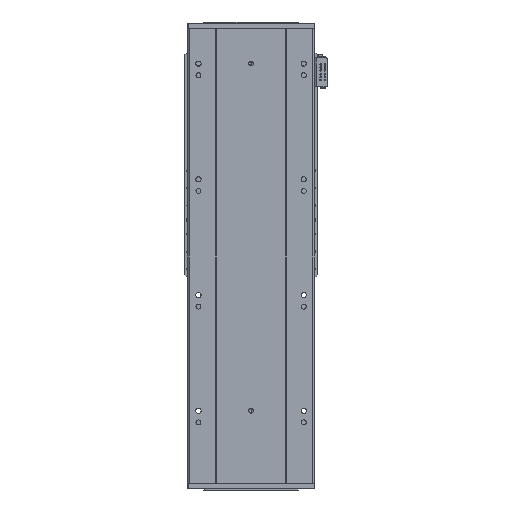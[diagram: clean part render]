
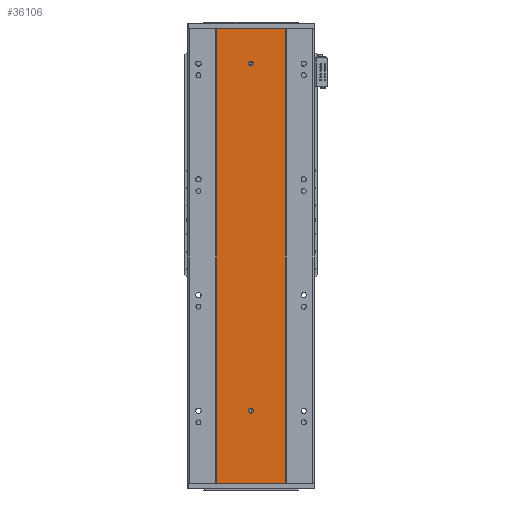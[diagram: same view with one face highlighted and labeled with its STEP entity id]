
A CAD part, front view. The second image highlights one B-rep face of the part: STEP entity #36106.
In plain terms, the highlighted planar face has unit normal (0, -1, 0).
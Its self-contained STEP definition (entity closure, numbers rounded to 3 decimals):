
#697 = ORIENTED_EDGE ( 'NONE', *, *, #25217, .T. ) ;
#701 = CARTESIAN_POINT ( 'NONE',  ( -60., 0., 785. ) ) ;
#1641 = EDGE_CURVE ( 'NONE', #48117, #24196, #40648, .T. ) ;
#1971 = AXIS2_PLACEMENT_3D ( 'NONE', #10897, #28650, #24479 ) ;
#2650 = ORIENTED_EDGE ( 'NONE', *, *, #1641, .F. ) ;
#4855 = ORIENTED_EDGE ( 'NONE', *, *, #45917, .F. ) ;
#6539 = DIRECTION ( 'NONE',  ( 0., 1., 0. ) ) ;
#6556 = CARTESIAN_POINT ( 'NONE',  ( -60., 0., 0. ) ) ;
#8780 = ORIENTED_EDGE ( 'NONE', *, *, #43769, .T. ) ;
#8926 = CARTESIAN_POINT ( 'NONE',  ( 0., 0., 729. ) ) ;
#9134 = CARTESIAN_POINT ( 'NONE',  ( 0., 0., 125. ) ) ;
#9730 = VERTEX_POINT ( 'NONE', #26915 ) ;
#10298 = LINE ( 'NONE', #6556, #26683 ) ;
#10897 = CARTESIAN_POINT ( 'NONE',  ( 0., 0., 125. ) ) ;
#11436 = CIRCLE ( 'NONE', #1971, 4. ) ;
#11693 = FACE_OUTER_BOUND ( 'NONE', #20039, .T. ) ;
#12550 = EDGE_CURVE ( 'NONE', #9730, #42192, #39896, .T. ) ;
#13127 = ORIENTED_EDGE ( 'NONE', *, *, #50139, .F. ) ;
#13851 = LINE ( 'NONE', #38752, #47324 ) ;
#14269 = AXIS2_PLACEMENT_3D ( 'NONE', #55718, #33949, #29525 ) ;
#17302 = CARTESIAN_POINT ( 'NONE',  ( -60., 0., 785. ) ) ;
#17425 = AXIS2_PLACEMENT_3D ( 'NONE', #9134, #39503, #43885 ) ;
#17673 = CARTESIAN_POINT ( 'NONE',  ( 0., 0., 129. ) ) ;
#18410 = VECTOR ( 'NONE', #50647, 1000. ) ;
#18568 = CIRCLE ( 'NONE', #51155, 4. ) ;
#19409 = DIRECTION ( 'NONE',  ( 1., 0., 0. ) ) ;
#19790 = LINE ( 'NONE', #19913, #18410 ) ;
#19913 = CARTESIAN_POINT ( 'NONE',  ( 60., 0., 785. ) ) ;
#20039 = EDGE_LOOP ( 'NONE', ( #8780, #40141, #51662, #697 ) ) ;
#21055 = LINE ( 'NONE', #17302, #38206 ) ;
#21075 = DIRECTION ( 'NONE',  ( 0., 0., -1. ) ) ;
#21824 = CARTESIAN_POINT ( 'NONE',  ( -60., 0., 0. ) ) ;
#22273 = DIRECTION ( 'NONE',  ( 0., 0., -1. ) ) ;
#24196 = VERTEX_POINT ( 'NONE', #17673 ) ;
#24479 = DIRECTION ( 'NONE',  ( 0., 0., -1. ) ) ;
#25217 = EDGE_CURVE ( 'NONE', #42191, #45742, #21055, .T. ) ;
#25307 = VERTEX_POINT ( 'NONE', #39826 ) ;
#26683 = VECTOR ( 'NONE', #19409, 1000. ) ;
#26915 = CARTESIAN_POINT ( 'NONE',  ( 0., 0., 721. ) ) ;
#28650 = DIRECTION ( 'NONE',  ( 0., -1., 0. ) ) ;
#28706 = PLANE ( 'NONE',  #53205 ) ;
#29525 = DIRECTION ( 'NONE',  ( 0., 0., -1. ) ) ;
#30607 = CARTESIAN_POINT ( 'NONE',  ( 0., 0., 725. ) ) ;
#30857 = ORIENTED_EDGE ( 'NONE', *, *, #12550, .F. ) ;
#33949 = DIRECTION ( 'NONE',  ( 0., -1., 0. ) ) ;
#34251 = FACE_BOUND ( 'NONE', #48871, .T. ) ;
#34493 = EDGE_CURVE ( 'NONE', #42191, #45377, #13851, .T. ) ;
#36012 = CARTESIAN_POINT ( 'NONE',  ( 60., 0., 785. ) ) ;
#36106 = ADVANCED_FACE ( 'NONE', ( #34251, #46544, #11693 ), #28706, .F. ) ;
#36781 = CARTESIAN_POINT ( 'NONE',  ( -60., 0., 785. ) ) ;
#37297 = EDGE_CURVE ( 'NONE', #45377, #25307, #19790, .T. ) ;
#38206 = VECTOR ( 'NONE', #22273, 1000. ) ;
#38752 = CARTESIAN_POINT ( 'NONE',  ( -60., 0., 785. ) ) ;
#39503 = DIRECTION ( 'NONE',  ( 0., -1., 0. ) ) ;
#39826 = CARTESIAN_POINT ( 'NONE',  ( 60., 0., 0. ) ) ;
#39896 = CIRCLE ( 'NONE', #14269, 4. ) ;
#40141 = ORIENTED_EDGE ( 'NONE', *, *, #37297, .F. ) ;
#40648 = CIRCLE ( 'NONE', #17425, 4. ) ;
#42191 = VERTEX_POINT ( 'NONE', #701 ) ;
#42192 = VERTEX_POINT ( 'NONE', #8926 ) ;
#42328 = CARTESIAN_POINT ( 'NONE',  ( 0., 0., 121. ) ) ;
#43769 = EDGE_CURVE ( 'NONE', #45742, #25307, #10298, .T. ) ;
#43885 = DIRECTION ( 'NONE',  ( 0., 0., -1. ) ) ;
#45377 = VERTEX_POINT ( 'NONE', #36012 ) ;
#45742 = VERTEX_POINT ( 'NONE', #21824 ) ;
#45917 = EDGE_CURVE ( 'NONE', #24196, #48117, #11436, .T. ) ;
#46544 = FACE_BOUND ( 'NONE', #47256, .T. ) ;
#47256 = EDGE_LOOP ( 'NONE', ( #2650, #4855 ) ) ;
#47324 = VECTOR ( 'NONE', #52317, 1000. ) ;
#47624 = DIRECTION ( 'NONE',  ( 0., -1., 0. ) ) ;
#48117 = VERTEX_POINT ( 'NONE', #42328 ) ;
#48871 = EDGE_LOOP ( 'NONE', ( #30857, #13127 ) ) ;
#49928 = DIRECTION ( 'NONE',  ( 0., 0., 1. ) ) ;
#50139 = EDGE_CURVE ( 'NONE', #42192, #9730, #18568, .T. ) ;
#50647 = DIRECTION ( 'NONE',  ( 0., 0., -1. ) ) ;
#51155 = AXIS2_PLACEMENT_3D ( 'NONE', #30607, #47624, #21075 ) ;
#51662 = ORIENTED_EDGE ( 'NONE', *, *, #34493, .F. ) ;
#52317 = DIRECTION ( 'NONE',  ( 1., 0., 0. ) ) ;
#53205 = AXIS2_PLACEMENT_3D ( 'NONE', #36781, #6539, #49928 ) ;
#55718 = CARTESIAN_POINT ( 'NONE',  ( 0., 0., 725. ) ) ;
